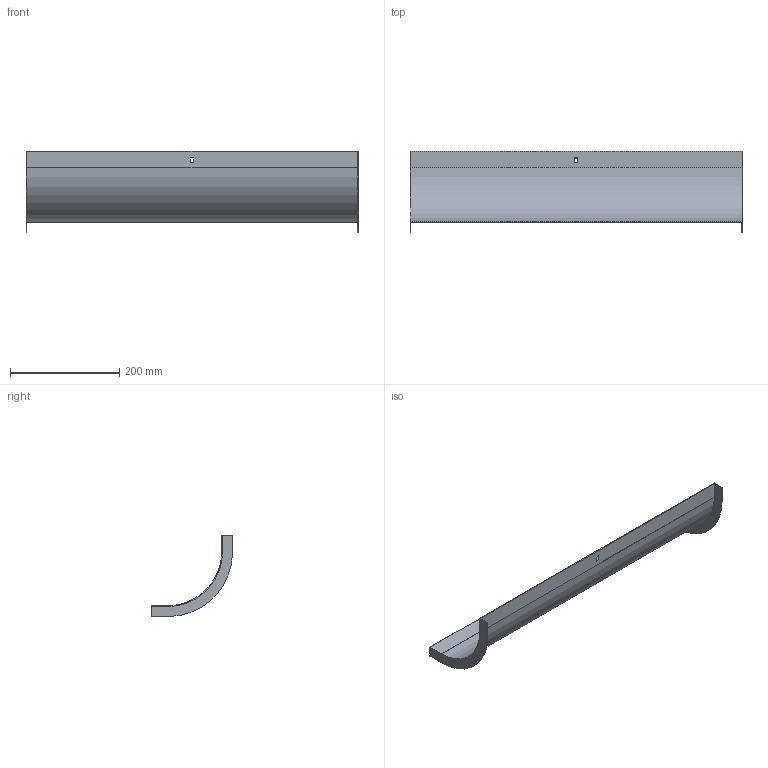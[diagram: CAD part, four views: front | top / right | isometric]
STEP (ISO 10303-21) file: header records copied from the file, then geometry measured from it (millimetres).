
FILE_DESCRIPTION (( 'STEP AP214' ), '1' );
FILE_NAME ('30G1P600.step', '2025-02-21T12:48:42', ( '' ), ( '' ), 'SwSTEP 2.0', 'SolidWorks 2023', '' );
FILE_SCHEMA (( 'AUTOMOTIVE_DESIGN' ));
Length unit declared in the file: millimetre
Products named in the file (1): 30G1P600
Bounding box: 607 x 148.5 x 148.5 mm (x, y, z)
Volume: 209257.2 mm3; surface area: 281769.5 mm2
Topology: 1 solids, 1 shells, 26 faces, 72 edges, 48 vertices
Faces by surface type: plane 22, cylinder 4
Entity records: 855 total; most frequent: CARTESIAN_POINT 147, ORIENTED_EDGE 144, DIRECTION 134, EDGE_CURVE 72, VECTOR 64, LINE 64, VERTEX_POINT 48, AXIS2_PLACEMENT_3D 35
